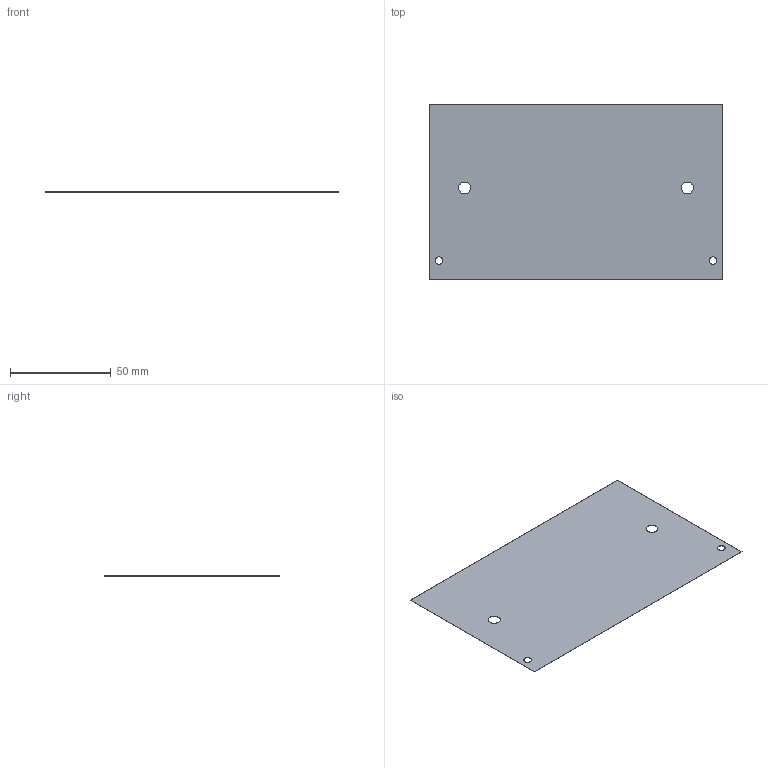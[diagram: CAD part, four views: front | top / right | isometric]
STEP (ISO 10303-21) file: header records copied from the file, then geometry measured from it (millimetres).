
FILE_DESCRIPTION(/* description */ ('Blind Plate 2U Siebdruck','CAx-IF Rec.Pracs.---Representation and Presentation of Product Manufacturing Information (PMI)---4.0---2014-10-13'),/* implementation_level */ '2;1');
FILE_NAME(/* name */ 'E:\CAMTEC_2020_Pack and Go\Subrack_2U\2081101001.stp',/* time_stamp */ '2020-09-21T15:33:14+02:00',/* author */ ('rryba'),/* organization */ (''),/* preprocessor_version */ 'ST-DEVELOPER v18.1',/* originating_system */ 'Autodesk Inventor 2021',/* authorisation */ '');
FILE_SCHEMA (('AP242_MANAGED_MODEL_BASED_3D_ENGINEERING_MIM_LF { 1 0 10303 442 1 1 4 }'));
Length unit declared in the file: millimetre
Products named in the file (1): 2081101001
Bounding box: 145.6 x 87 x 0.1 mm (x, y, z)
Volume: 1259 mm3; surface area: 25232.3 mm2
Topology: 1 solids, 1 shells, 10 faces, 30 edges, 26 vertices
Faces by surface type: plane 6, cylinder 4
Full cylindrical faces by diameter (mm): 3.8 x2, 5.9 x2
Entity records: 394 total; most frequent: CARTESIAN_POINT 61, DIRECTION 58, ORIENTED_EDGE 48, EDGE_CURVE 24, AXIS2_PLACEMENT_3D 21, EDGE_LOOP 18, LINE 16, VECTOR 16
